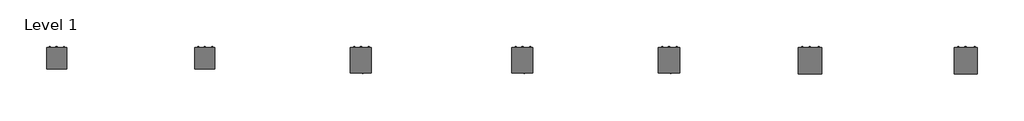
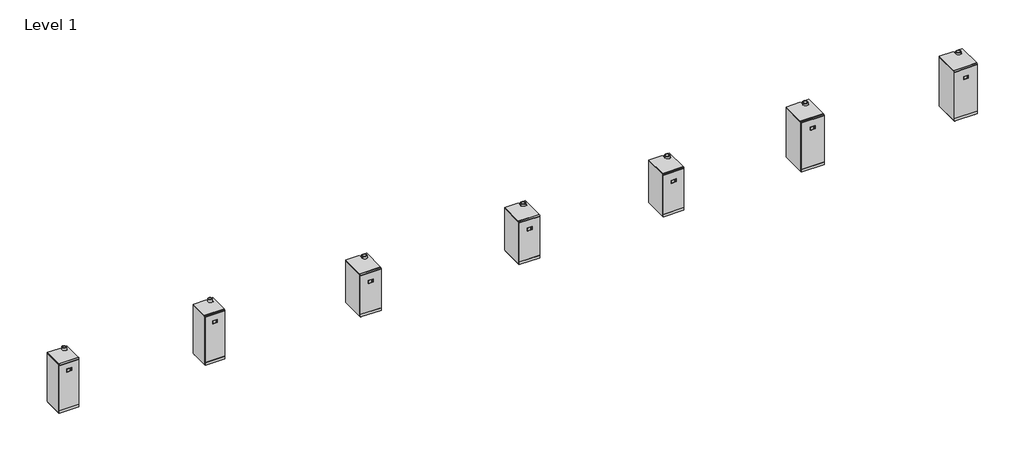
# One storey: 7 unitary equipment elements.
"""IFC4 building model written with IfcOpenShell, lengths in millimetres."""

from ifc_helpers import new_model, si_unit, origin, place, context, project, spatial, transform, mapped, element, save
from components import aic_combination_boiler_coilmaster_35_120_r00_cm_100_ebcbf3f2, aic_combination_boiler_coilmaster_35_120_r00_cm_120_bfeba861, aic_combination_boiler_coilmaster_35_120_r00_cm_35_10141b9a, aic_combination_boiler_coilmaster_35_120_r00_cm_60_199503dd

model = new_model("IFC4")

# Units and contexts
model_context = context("Model", 3, world=origin())
ifc_project = project(units=[si_unit("LENGTHUNIT", "METRE", prefix="MILLI")], contexts=[model_context])

# Site, building, storey
site = spatial("IfcSite", under=ifc_project)
building = spatial("IfcBuilding", under=site)
storey = spatial("IfcBuildingStorey", under=building, Name="Level 1", Elevation=0.0)

# Unitary equipment
placement = place(None, origin())
aic_combination_boiler_coilmaster_35_120_r00_cm_100_shape = aic_combination_boiler_coilmaster_35_120_r00_cm_100_ebcbf3f2(model_context)
element("IfcUnitaryEquipment", 1, ObjectType="AIC_Combination_Boiler_CoilMaster_35-120_r00 : CM 100", at=placement, inside=storey, context=model_context, shape_type="MappedRepresentation", body=[
    mapped(aic_combination_boiler_coilmaster_35_120_r00_cm_100_shape, transform((10155.4807132, 639.6513208, 0.0), x_axis=(1.0, 0.0, 0.0), y_axis=(0.0, 1.0, 0.0), z_axis=(0.0, 0.0, 1.0))),
])
aic_combination_boiler_coilmaster_35_120_r00_cm_120_shape = aic_combination_boiler_coilmaster_35_120_r00_cm_120_bfeba861(model_context)
element("IfcUnitaryEquipment", 2, ObjectType="AIC_Combination_Boiler_CoilMaster_35-120_r00 : CM 120", at=placement, inside=storey, context=model_context, shape_type="MappedRepresentation", body=[
    mapped(aic_combination_boiler_coilmaster_35_120_r00_cm_120_shape, transform((14842.1687964, 639.6513208, 0.0), x_axis=(1.0, 0.0, 0.0), y_axis=(0.0, 1.0, 0.0), z_axis=(0.0, 0.0, 1.0))),
])
aic_combination_boiler_coilmaster_35_120_r00_cm_35_shape = aic_combination_boiler_coilmaster_35_120_r00_cm_35_10141b9a(model_context)
element("IfcUnitaryEquipment", 3, ObjectType="AIC_Combination_Boiler_CoilMaster_35-120_r00 : CM 35", at=placement, inside=storey, context=model_context, shape_type="MappedRepresentation", body=[
    mapped(aic_combination_boiler_coilmaster_35_120_r00_cm_35_shape, transform((-12487.4340021, 639.6513208, 0.0), x_axis=(1.0, 0.0, 0.0), y_axis=(0.0, 1.0, 0.0), z_axis=(0.0, 0.0, 1.0))),
])
element("IfcUnitaryEquipment", 4, ObjectType="AIC_Combination_Boiler_CoilMaster_35-120_r00 : CM 45", at=placement, inside=storey, context=model_context, shape_type="MappedRepresentation", body=[
    mapped(aic_combination_boiler_coilmaster_35_120_r00_cm_35_shape, transform((-8026.6104048, 639.6513208, 0.0), x_axis=(1.0, 0.0, 0.0), y_axis=(0.0, 1.0, 0.0), z_axis=(0.0, 0.0, 1.0))),
])
aic_combination_boiler_coilmaster_35_120_r00_cm_60_shape = aic_combination_boiler_coilmaster_35_120_r00_cm_60_199503dd(model_context)
element("IfcUnitaryEquipment", 5, ObjectType="AIC_Combination_Boiler_CoilMaster_35-120_r00 : CM 60", at=placement, inside=storey, context=model_context, shape_type="MappedRepresentation", body=[
    mapped(aic_combination_boiler_coilmaster_35_120_r00_cm_60_shape, transform((-3339.9223216, 639.6513208, 0.0), x_axis=(1.0, 0.0, 0.0), y_axis=(0.0, 1.0, 0.0), z_axis=(0.0, 0.0, 1.0))),
])
element("IfcUnitaryEquipment", 6, ObjectType="AIC_Combination_Boiler_CoilMaster_35-120_r00 : CM 70", at=placement, inside=storey, context=model_context, shape_type="MappedRepresentation", body=[
    mapped(aic_combination_boiler_coilmaster_35_120_r00_cm_60_shape, transform((1516.1641261, 639.6513208, 0.0), x_axis=(1.0, 0.0, 0.0), y_axis=(0.0, 1.0, 0.0), z_axis=(0.0, 0.0, 1.0))),
])
element("IfcUnitaryEquipment", 7, ObjectType="AIC_Combination_Boiler_CoilMaster_35-120_r00 : CM 80", at=placement, inside=storey, context=model_context, shape_type="MappedRepresentation", body=[
    mapped(aic_combination_boiler_coilmaster_35_120_r00_cm_60_shape, transform((5920.5216019, 639.6513208, 0.0), x_axis=(1.0, 0.0, 0.0), y_axis=(0.0, 1.0, 0.0), z_axis=(0.0, 0.0, 1.0))),
])

save(model, "model.ifc")
